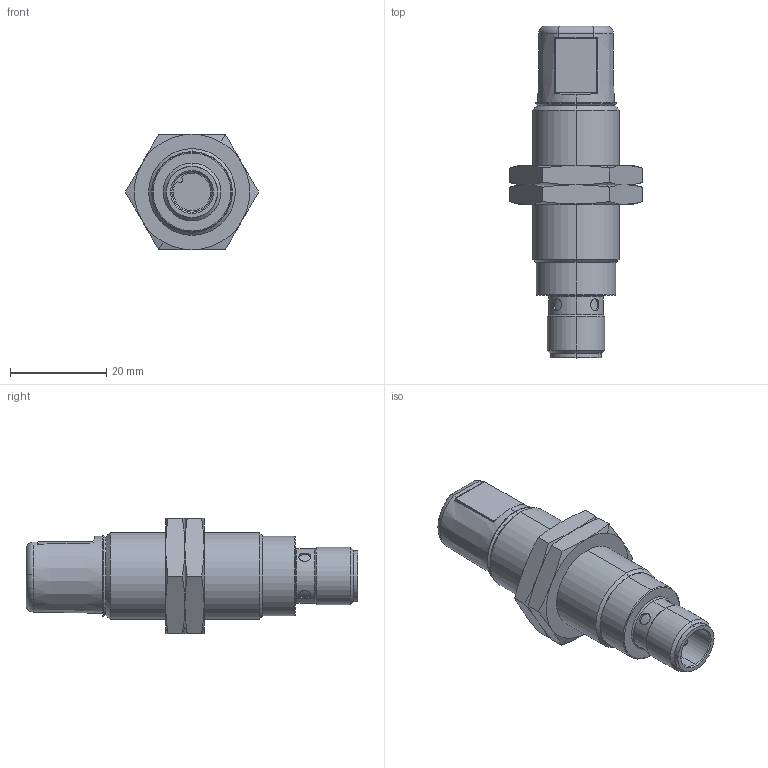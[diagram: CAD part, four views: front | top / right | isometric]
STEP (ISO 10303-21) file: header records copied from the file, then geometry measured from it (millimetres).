
FILE_DESCRIPTION( ( '' ), '1' );
FILE_NAME( '//partserver001.servicenet/client_exchange/iodir/jobs/output/wkb12417340_no0/STEP/og5129_2_03.stp', '2008-10-07T13:12:10', ( '' ), ( '' ), ' ', ' ', ' ' );
FILE_SCHEMA( ( 'CONFIG_CONTROL_DESIGN' ) );
Length unit declared in the file: millimetre
Products named in the file (4): 1; 2; 3; 4
Bounding box: 27.71 x 69 x 24 mm (x, y, z)
Volume: 15830.4 mm3; surface area: 6545.9 mm2
Topology: 4 solids, 4 shells, 152 faces, 357 edges, 223 vertices
Faces by surface type: cone 54, plane 46, cylinder 40, torus 12
Entity records: 4754 total; most frequent: CARTESIAN_POINT 1170, DIRECTION 738, ORIENTED_EDGE 714, EDGE_CURVE 357, AXIS2_PLACEMENT_3D 307, VERTEX_POINT 223, EDGE_LOOP 166, ADVANCED_FACE 152
